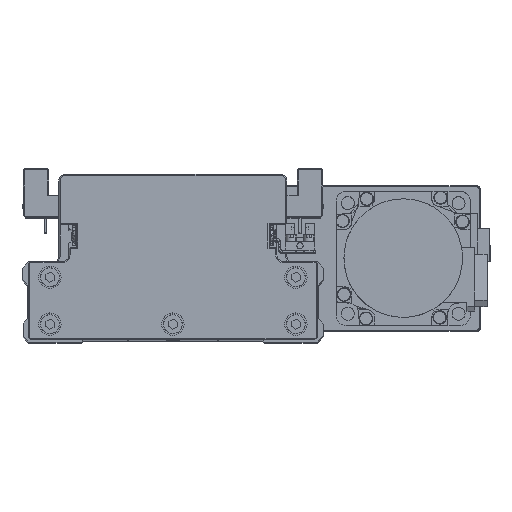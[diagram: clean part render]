
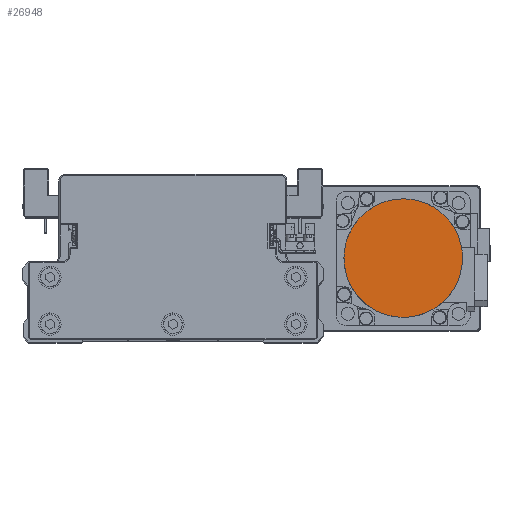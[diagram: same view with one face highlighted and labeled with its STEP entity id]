
A CAD part, top view. The second image highlights one B-rep face of the part: STEP entity #26948.
In plain terms, the highlighted planar face has unit normal (0, 0, 1) as drawn and (0, 0, -1) by its records, which use the part's own axes.
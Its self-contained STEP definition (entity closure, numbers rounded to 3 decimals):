
#57 = CARTESIAN_POINT ( 'NONE',  ( -1.734, -26.5, -109.7 ) ) ;
#262 = CARTESIAN_POINT ( 'NONE',  ( 25.147, -8.539, -109.7 ) ) ;
#715 = CARTESIAN_POINT ( 'NONE',  ( 26.5, 0., -109.7 ) ) ;
#1758 = CARTESIAN_POINT ( 'NONE',  ( -26.5, 0., -109.7 ) ) ;
#2434 = CARTESIAN_POINT ( 'NONE',  ( 22.998, 13.28, -109.7 ) ) ;
#2637 = CARTESIAN_POINT ( 'NONE',  ( -6.871, 25.652, -109.7 ) ) ;
#2838 = CARTESIAN_POINT ( 'NONE',  ( -26.5, 1.734, -109.7 ) ) ;
#2902 = CARTESIAN_POINT ( 'NONE',  ( -26.5, 0., -109.7 ) ) ;
#3085 = CARTESIAN_POINT ( 'NONE',  ( -8.539, -25.147, -109.7 ) ) ;
#3208 = DIRECTION ( 'NONE',  ( 1., 0., 0. ) ) ;
#3289 = CARTESIAN_POINT ( 'NONE',  ( 21.07, -16.165, -109.7 ) ) ;
#5476 = CARTESIAN_POINT ( 'NONE',  ( 25.652, 6.871, -109.7 ) ) ;
#5668 = CARTESIAN_POINT ( 'NONE',  ( 1.734, 26.5, -109.7 ) ) ;
#5869 = CARTESIAN_POINT ( 'NONE',  ( -25.147, 8.539, -109.7 ) ) ;
#6131 = CARTESIAN_POINT ( 'NONE',  ( -16.165, -21.07, -109.7 ) ) ;
#6238 = PLANE ( 'NONE',  #35792 ) ;
#6316 = CARTESIAN_POINT ( 'NONE',  ( 16.165, -21.07, -109.7 ) ) ;
#6540 = B_SPLINE_CURVE_WITH_KNOTS ( 'NONE', 3,
 ( #8503, #20857, #33202, #5476, #17820, #30159, #2434, #14779, #27134, #39472, #11748, #24102, #36433, #8705, #21058, #33400, #5668, #18011, #30357, #2637, #14979, #27335, #39674, #11949, #24292, #36629, #8898, #21255, #33599, #5869, #18207, #30559, #2838, #15175 ),
 .UNSPECIFIED., .F., .F.,
 ( 4, 2, 2, 2, 2, 2, 2, 2, 2, 2, 2, 2, 2, 2, 2, 2, 4 ),
 ( 0., 0.062, 0.125, 0.187, 0.25, 0.312, 0.375, 0.437, 0.5, 0.562, 0.625, 0.687, 0.75, 0.813, 0.875, 0.938, 1. ),
 .UNSPECIFIED. ) ;
#8503 = CARTESIAN_POINT ( 'NONE',  ( 26.5, 0., -109.7 ) ) ;
#8705 = CARTESIAN_POINT ( 'NONE',  ( 8.539, 25.147, -109.7 ) ) ;
#8898 = CARTESIAN_POINT ( 'NONE',  ( -21.07, 16.165, -109.7 ) ) ;
#9166 = CARTESIAN_POINT ( 'NONE',  ( -21.07, -16.165, -109.7 ) ) ;
#9375 = CARTESIAN_POINT ( 'NONE',  ( 8.539, -25.147, -109.7 ) ) ;
#9565 = CARTESIAN_POINT ( 'NONE',  ( 26.5, 0., -109.7 ) ) ;
#11748 = CARTESIAN_POINT ( 'NONE',  ( 16.165, 21.07, -109.7 ) ) ;
#11949 = CARTESIAN_POINT ( 'NONE',  ( -16.165, 21.07, -109.7 ) ) ;
#12196 = CARTESIAN_POINT ( 'NONE',  ( -25.147, -8.539, -109.7 ) ) ;
#12405 = CARTESIAN_POINT ( 'NONE',  ( 1.734, -26.5, -109.7 ) ) ;
#12614 = CARTESIAN_POINT ( 'NONE',  ( 25.652, -6.871, -109.7 ) ) ;
#14779 = CARTESIAN_POINT ( 'NONE',  ( 21.07, 16.165, -109.7 ) ) ;
#14979 = CARTESIAN_POINT ( 'NONE',  ( -8.539, 25.147, -109.7 ) ) ;
#15175 = CARTESIAN_POINT ( 'NONE',  ( -26.5, 0., -109.7 ) ) ;
#15239 = CARTESIAN_POINT ( 'NONE',  ( -26.5, -1.734, -109.7 ) ) ;
#15423 = CARTESIAN_POINT ( 'NONE',  ( -6.871, -25.652, -109.7 ) ) ;
#15576 = VERTEX_POINT ( 'NONE', #715 ) ;
#15630 = CARTESIAN_POINT ( 'NONE',  ( 22.998, -13.28, -109.7 ) ) ;
#17820 = CARTESIAN_POINT ( 'NONE',  ( 25.147, 8.539, -109.7 ) ) ;
#18011 = CARTESIAN_POINT ( 'NONE',  ( -1.734, 26.5, -109.7 ) ) ;
#18207 = CARTESIAN_POINT ( 'NONE',  ( -25.652, 6.871, -109.7 ) ) ;
#18463 = CARTESIAN_POINT ( 'NONE',  ( -13.28, -22.998, -109.7 ) ) ;
#18578 = CARTESIAN_POINT ( 'NONE',  ( 0., 0., -109.7 ) ) ;
#18654 = CARTESIAN_POINT ( 'NONE',  ( 17.512, -19.965, -109.7 ) ) ;
#18983 = EDGE_CURVE ( 'NONE', #39340, #15576, #32869, .T. ) ;
#19041 = ORIENTED_EDGE ( 'NONE', *, *, #22253, .F. ) ;
#20857 = CARTESIAN_POINT ( 'NONE',  ( 26.5, 1.734, -109.7 ) ) ;
#21058 = CARTESIAN_POINT ( 'NONE',  ( 6.871, 25.652, -109.7 ) ) ;
#21255 = CARTESIAN_POINT ( 'NONE',  ( -22.998, 13.28, -109.7 ) ) ;
#21528 = CARTESIAN_POINT ( 'NONE',  ( -19.965, -17.512, -109.7 ) ) ;
#21728 = CARTESIAN_POINT ( 'NONE',  ( 11.744, -23.819, -109.7 ) ) ;
#22253 = EDGE_CURVE ( 'NONE', #15576, #39340, #6540, .T. ) ;
#24102 = CARTESIAN_POINT ( 'NONE',  ( 13.28, 22.998, -109.7 ) ) ;
#24292 = CARTESIAN_POINT ( 'NONE',  ( -17.512, 19.965, -109.7 ) ) ;
#24547 = CARTESIAN_POINT ( 'NONE',  ( -23.819, -11.744, -109.7 ) ) ;
#24756 = CARTESIAN_POINT ( 'NONE',  ( 3.469, -26.329, -109.7 ) ) ;
#24957 = CARTESIAN_POINT ( 'NONE',  ( 26.329, -3.469, -109.7 ) ) ;
#26948 = ADVANCED_FACE ( 'NONE', ( #33979 ), #6238, .F. ) ;
#27134 = CARTESIAN_POINT ( 'NONE',  ( 19.965, 17.512, -109.7 ) ) ;
#27335 = CARTESIAN_POINT ( 'NONE',  ( -11.744, 23.819, -109.7 ) ) ;
#27583 = CARTESIAN_POINT ( 'NONE',  ( -26.329, -3.469, -109.7 ) ) ;
#27777 = CARTESIAN_POINT ( 'NONE',  ( -3.469, -26.329, -109.7 ) ) ;
#27990 = CARTESIAN_POINT ( 'NONE',  ( 23.819, -11.744, -109.7 ) ) ;
#29134 = ORIENTED_EDGE ( 'NONE', *, *, #18983, .F. ) ;
#30159 = CARTESIAN_POINT ( 'NONE',  ( 23.819, 11.744, -109.7 ) ) ;
#30357 = CARTESIAN_POINT ( 'NONE',  ( -3.469, 26.329, -109.7 ) ) ;
#30559 = CARTESIAN_POINT ( 'NONE',  ( -26.329, 3.469, -109.7 ) ) ;
#30820 = CARTESIAN_POINT ( 'NONE',  ( -11.744, -23.819, -109.7 ) ) ;
#30931 = DIRECTION ( 'NONE',  ( 0., 0., 1. ) ) ;
#31014 = CARTESIAN_POINT ( 'NONE',  ( 19.965, -17.512, -109.7 ) ) ;
#32869 = B_SPLINE_CURVE_WITH_KNOTS ( 'NONE', 3,
 ( #2902, #15239, #27583, #39926, #12196, #24547, #36890, #9166, #21528, #33869, #6131, #18463, #30820, #3085, #15423, #27777, #57, #12405, #24756, #37096, #9375, #21728, #34056, #6316, #18654, #31014, #3289, #15630, #27990, #262, #12614, #24957, #37290, #9565 ),
 .UNSPECIFIED., .F., .F.,
 ( 4, 2, 2, 2, 2, 2, 2, 2, 2, 2, 2, 2, 2, 2, 2, 2, 4 ),
 ( 0., 0.063, 0.125, 0.188, 0.25, 0.312, 0.375, 0.437, 0.5, 0.562, 0.625, 0.687, 0.75, 0.813, 0.875, 0.938, 1. ),
 .UNSPECIFIED. ) ;
#33202 = CARTESIAN_POINT ( 'NONE',  ( 26.329, 3.469, -109.7 ) ) ;
#33400 = CARTESIAN_POINT ( 'NONE',  ( 3.469, 26.329, -109.7 ) ) ;
#33599 = CARTESIAN_POINT ( 'NONE',  ( -23.819, 11.744, -109.7 ) ) ;
#33869 = CARTESIAN_POINT ( 'NONE',  ( -17.512, -19.965, -109.7 ) ) ;
#33979 = FACE_OUTER_BOUND ( 'NONE', #38976, .T. ) ;
#34056 = CARTESIAN_POINT ( 'NONE',  ( 13.28, -22.998, -109.7 ) ) ;
#35792 = AXIS2_PLACEMENT_3D ( 'NONE', #18578, #30931, #3208 ) ;
#36433 = CARTESIAN_POINT ( 'NONE',  ( 11.744, 23.819, -109.7 ) ) ;
#36629 = CARTESIAN_POINT ( 'NONE',  ( -19.965, 17.512, -109.7 ) ) ;
#36890 = CARTESIAN_POINT ( 'NONE',  ( -22.998, -13.28, -109.7 ) ) ;
#37096 = CARTESIAN_POINT ( 'NONE',  ( 6.871, -25.652, -109.7 ) ) ;
#37290 = CARTESIAN_POINT ( 'NONE',  ( 26.5, -1.734, -109.7 ) ) ;
#38976 = EDGE_LOOP ( 'NONE', ( #19041, #29134 ) ) ;
#39340 = VERTEX_POINT ( 'NONE', #1758 ) ;
#39472 = CARTESIAN_POINT ( 'NONE',  ( 17.512, 19.965, -109.7 ) ) ;
#39674 = CARTESIAN_POINT ( 'NONE',  ( -13.28, 22.998, -109.7 ) ) ;
#39926 = CARTESIAN_POINT ( 'NONE',  ( -25.652, -6.871, -109.7 ) ) ;
